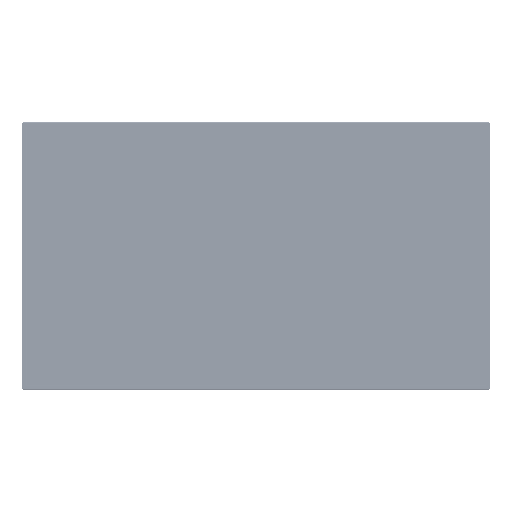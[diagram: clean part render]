
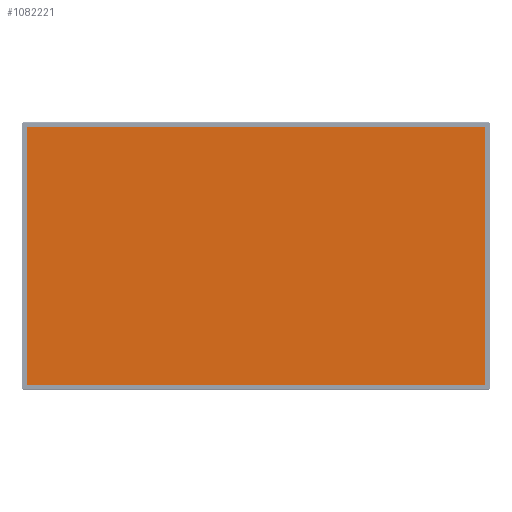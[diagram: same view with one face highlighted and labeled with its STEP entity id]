
A CAD part, top view. The second image highlights one B-rep face of the part: STEP entity #1082221.
In plain terms, the highlighted planar face has unit normal (0, 0, 1).
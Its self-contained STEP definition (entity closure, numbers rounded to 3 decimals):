
#53807 = VERTEX_POINT ( 'NONE', #688109 ) ;
#66583 = EDGE_LOOP ( 'NONE', ( #814015, #1078746, #1112349, #883189 ) ) ;
#71266 = CARTESIAN_POINT ( 'NONE',  ( -604.8, 340.2, -1.85 ) ) ;
#161751 = CARTESIAN_POINT ( 'NONE',  ( 604.8, -340.2, -1.85 ) ) ;
#221336 = DIRECTION ( 'NONE',  ( 1., 0., 0. ) ) ;
#256772 = CARTESIAN_POINT ( 'NONE',  ( 604.8, -340.2, -1.85 ) ) ;
#275717 = CARTESIAN_POINT ( 'NONE',  ( 604.8, -113.4, -1.8 ) ) ;
#320710 = CARTESIAN_POINT ( 'NONE',  ( -604.8, -113.4, -1.8 ) ) ;
#320715 = AXIS2_PLACEMENT_3D ( 'NONE', #1276401, #570494, #221336 ) ;
#380775 = VERTEX_POINT ( 'NONE', #256772 ) ;
#425605 = CARTESIAN_POINT ( 'NONE',  ( 604.8, -340.2, -1.85 ) ) ;
#434524 = CARTESIAN_POINT ( 'NONE',  ( -604.8, -340.2, -1.85 ) ) ;
#490550 = VERTEX_POINT ( 'NONE', #71266 ) ;
#515545 = CARTESIAN_POINT ( 'NONE',  ( 201.6, 340.2, -1.8 ) ) ;
#570494 = DIRECTION ( 'NONE',  ( 0., 0., 1. ) ) ;
#587093 = EDGE_CURVE ( 'NONE', #608420, #380775, #788118, .T. ) ;
#608420 = VERTEX_POINT ( 'NONE', #1228214 ) ;
#639854 = CARTESIAN_POINT ( 'NONE',  ( 604.8, 113.4, -1.8 ) ) ;
#688109 = CARTESIAN_POINT ( 'NONE',  ( -604.8, -340.2, -1.85 ) ) ;
#714422 = FACE_OUTER_BOUND ( 'NONE', #66583, .T. ) ;
#777642 = EDGE_CURVE ( 'NONE', #490550, #608420, #1076292, .T. ) ;
#783952 = CARTESIAN_POINT ( 'NONE',  ( -604.8, 113.4, -1.8 ) ) ;
#788118 = B_SPLINE_CURVE_WITH_KNOTS ( 'NONE', 3,
 ( #996473, #639854, #275717, #161751 ),
 .UNSPECIFIED., .F., .F.,
 ( 4, 4 ),
 ( 0., 1. ),
 .UNSPECIFIED. ) ;
#814015 = ORIENTED_EDGE ( 'NONE', *, *, #777642, .F. ) ;
#883189 = ORIENTED_EDGE ( 'NONE', *, *, #587093, .F. ) ;
#888907 = EDGE_CURVE ( 'NONE', #53807, #490550, #1348938, .T. ) ;
#956087 = EDGE_CURVE ( 'NONE', #380775, #53807, #957810, .T. ) ;
#957810 = B_SPLINE_CURVE_WITH_KNOTS ( 'NONE', 3,
 ( #425605, #1230472, #1473340, #1480910 ),
 .UNSPECIFIED., .F., .F.,
 ( 4, 4 ),
 ( 0., 1. ),
 .UNSPECIFIED. ) ;
#971315 = CARTESIAN_POINT ( 'NONE',  ( -201.6, 340.2, -1.8 ) ) ;
#996473 = CARTESIAN_POINT ( 'NONE',  ( 604.8, 340.2, -1.85 ) ) ;
#1017140 = CARTESIAN_POINT ( 'NONE',  ( -604.8, 340.2, -1.85 ) ) ;
#1076292 = B_SPLINE_CURVE_WITH_KNOTS ( 'NONE', 3,
 ( #1335392, #971315, #515545, #1199091 ),
 .UNSPECIFIED., .F., .F.,
 ( 4, 4 ),
 ( 0., 1. ),
 .UNSPECIFIED. ) ;
#1078746 = ORIENTED_EDGE ( 'NONE', *, *, #888907, .F. ) ;
#1082221 = ADVANCED_FACE ( 'NONE', ( #714422 ), #1397830, .T. ) ;
#1112349 = ORIENTED_EDGE ( 'NONE', *, *, #956087, .F. ) ;
#1199091 = CARTESIAN_POINT ( 'NONE',  ( 604.8, 340.2, -1.85 ) ) ;
#1228214 = CARTESIAN_POINT ( 'NONE',  ( 604.8, 340.2, -1.85 ) ) ;
#1230472 = CARTESIAN_POINT ( 'NONE',  ( 201.6, -340.2, -1.8 ) ) ;
#1276401 = CARTESIAN_POINT ( 'NONE',  ( 609.8, -0.125, -1.9 ) ) ;
#1335392 = CARTESIAN_POINT ( 'NONE',  ( -604.8, 340.2, -1.85 ) ) ;
#1348938 = B_SPLINE_CURVE_WITH_KNOTS ( 'NONE', 3,
 ( #434524, #320710, #783952, #1017140 ),
 .UNSPECIFIED., .F., .F.,
 ( 4, 4 ),
 ( 0., 1. ),
 .UNSPECIFIED. ) ;
#1397830 = PLANE ( 'NONE',  #320715 ) ;
#1473340 = CARTESIAN_POINT ( 'NONE',  ( -201.6, -340.2, -1.8 ) ) ;
#1480910 = CARTESIAN_POINT ( 'NONE',  ( -604.8, -340.2, -1.85 ) ) ;
